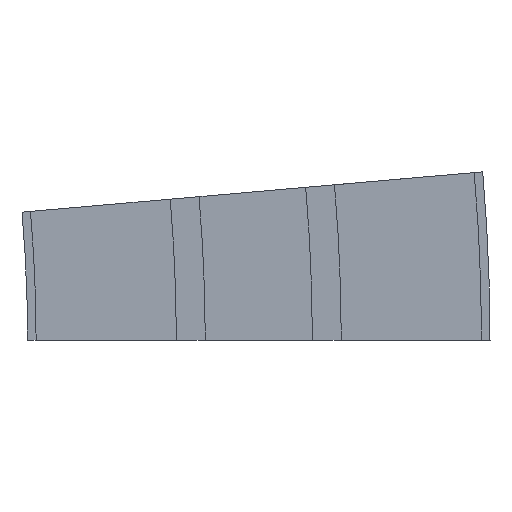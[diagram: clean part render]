
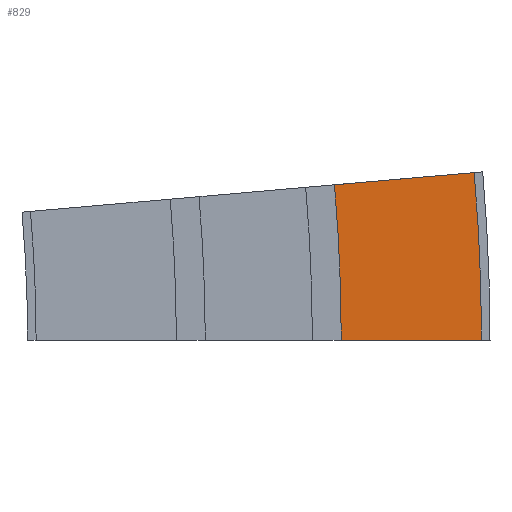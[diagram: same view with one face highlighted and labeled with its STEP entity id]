
A CAD part, left-side view. The second image highlights one B-rep face of the part: STEP entity #829.
In plain terms, the highlighted planar face has unit normal (-1, 0, 0).
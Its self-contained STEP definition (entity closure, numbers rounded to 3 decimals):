
#6 = AXIS2_PLACEMENT_3D ( 'NONE', #617, #654, #652 ) ;
#9 = EDGE_CURVE ( 'NONE', #190, #218, #384, .T. ) ;
#46 = AXIS2_PLACEMENT_3D ( 'NONE', #910, #977, #966 ) ;
#55 = EDGE_CURVE ( 'NONE', #192, #185, #410, .T. ) ;
#56 = EDGE_CURVE ( 'NONE', #190, #192, #395, .T. ) ;
#57 = EDGE_CURVE ( 'NONE', #218, #185, #413, .T. ) ;
#177 = EDGE_LOOP ( 'NONE', ( #293, #294, #295, #296 ) ) ;
#185 = VERTEX_POINT ( 'NONE', #779 ) ;
#190 = VERTEX_POINT ( 'NONE', #762 ) ;
#192 = VERTEX_POINT ( 'NONE', #731 ) ;
#218 = VERTEX_POINT ( 'NONE', #735 ) ;
#293 = ORIENTED_EDGE ( 'NONE', *, *, #55, .F. ) ;
#294 = ORIENTED_EDGE ( 'NONE', *, *, #56, .F. ) ;
#295 = ORIENTED_EDGE ( 'NONE', *, *, #9, .T. ) ;
#296 = ORIENTED_EDGE ( 'NONE', *, *, #57, .T. ) ;
#384 = CIRCLE ( 'NONE', #6, 524.25 ) ;
#395 = LINE ( 'NONE', #974, #414 ) ;
#410 = CIRCLE ( 'NONE', #46, 565.5 ) ;
#413 = LINE ( 'NONE', #987, #416 ) ;
#414 = VECTOR ( 'NONE', #909, 1000. ) ;
#416 = VECTOR ( 'NONE', #1014, 1000. ) ;
#541 = FACE_OUTER_BOUND ( 'NONE', #177, .T. ) ;
#617 = CARTESIAN_POINT ( 'NONE',  ( -211.5, 500., 0. ) ) ;
#652 = DIRECTION ( 'NONE',  ( 0., 0., -1. ) ) ;
#654 = DIRECTION ( 'NONE',  ( 1., 0., 0. ) ) ;
#671 = DIRECTION ( 'NONE',  ( 0., 0., -1. ) ) ;
#673 = DIRECTION ( 'NONE',  ( 1., 0., 0. ) ) ;
#676 = CARTESIAN_POINT ( 'NONE',  ( -211.5, -22.255, 45.691 ) ) ;
#677 = PLANE ( 'NONE',  #876 ) ;
#731 = CARTESIAN_POINT ( 'NONE',  ( -211.5, -63.348, 49.287 ) ) ;
#735 = CARTESIAN_POINT ( 'NONE',  ( -211.5, -24.25, 0. ) ) ;
#762 = CARTESIAN_POINT ( 'NONE',  ( -211.5, -22.255, 45.691 ) ) ;
#779 = CARTESIAN_POINT ( 'NONE',  ( -211.5, -65.5, 0. ) ) ;
#829 = ADVANCED_FACE ( 'NONE', ( #541 ), #677, .F. ) ;
#876 = AXIS2_PLACEMENT_3D ( 'NONE', #676, #673, #671 ) ;
#909 = DIRECTION ( 'NONE',  ( 0., -0.996, 0.087 ) ) ;
#910 = CARTESIAN_POINT ( 'NONE',  ( -211.5, 500., 0. ) ) ;
#966 = DIRECTION ( 'NONE',  ( 0., 0., -1. ) ) ;
#974 = CARTESIAN_POINT ( 'NONE',  ( -211.5, -22.255, 45.691 ) ) ;
#977 = DIRECTION ( 'NONE',  ( 1., 0., 0. ) ) ;
#987 = CARTESIAN_POINT ( 'NONE',  ( -211.5, -24.25, 0. ) ) ;
#1014 = DIRECTION ( 'NONE',  ( 0., -1., 0. ) ) ;
